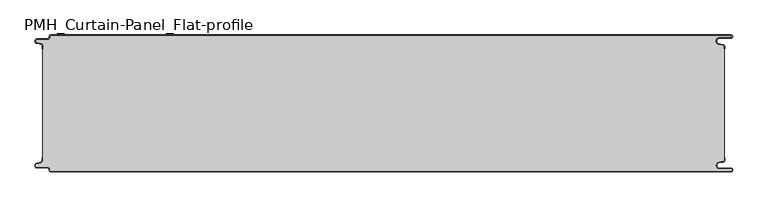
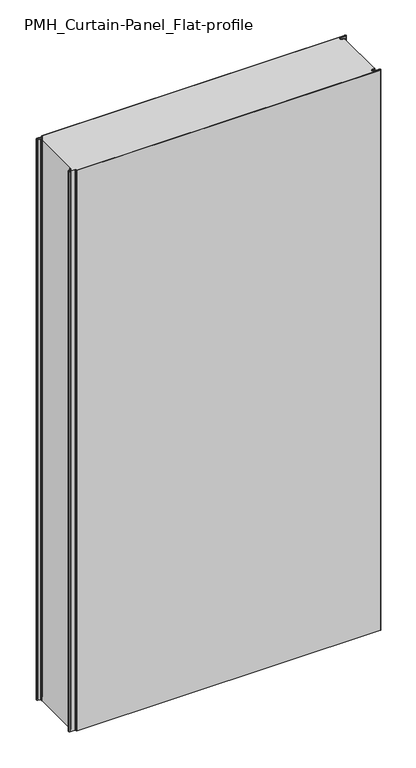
"""IFC4 building model written with IfcOpenShell, lengths in millimetres: plate geometry, PMH_Curtain-Panel_Flat-profile : ACH_PMH_Stone-wool-Panel_200M."""

import ifcopenshell
import ifcopenshell.guid

model = None  # the IFC model being written
_history = None  # IfcOwnerHistory: only IFC2X3 demands one
_inside = {}  # id of a spatial element -> (the spatial element, [elements in it])
_under = {}  # id of a project, library or spatial element -> (it, [spatial elements below it])
_declared = {}  # id of a project -> (the project, [libraries it declares])
_typed = {}  # id of a type object -> (the type object, [elements of that type])
_made_of = {}  # id of a material, layer set ... -> (it, [elements and type objects made of it])


def new_model(schema):
    """Start an empty IFC model of exactly this schema.

    Asked for "IFC4X3", IfcOpenShell would pick the latest addendum, in which some entities
    have other attributes; the version numbers below select the first issue.
    IFC2X3 requires an IfcOwnerHistory on every rooted entity: one is made here for all.
    """
    global model, _history
    if schema == "IFC4X3":
        model = ifcopenshell.file(schema_version=(4, 3, 0, 0))
    else:
        model = ifcopenshell.file(schema=schema)
    _inside.clear()
    _under.clear()
    _declared.clear()
    _typed.clear()
    _made_of.clear()
    _history = None
    if model.schema == "IFC2X3":
        org = make("IfcOrganization", Name="unknown")
        user = make(
            "IfcPersonAndOrganization",
            ThePerson=make("IfcPerson", FamilyName="unknown"),
            TheOrganization=org,
        )
        app = make(
            "IfcApplication",
            ApplicationDeveloper=org,
            Version="unknown",
            ApplicationFullName="unknown",
            ApplicationIdentifier="unknown",
        )
        _history = make(
            "IfcOwnerHistory",
            OwningUser=user,
            OwningApplication=app,
            ChangeAction="ADDED",
            CreationDate=0,
        )
    return model


def make(cls, **values):
    """One entity of the class cls with the attributes given. An attribute that is None is left unset."""
    return model.create_entity(
        cls, **{name: value for name, value in values.items() if value is not None}
    )


def rooted(cls, **values):
    """An entity with a GlobalId (a new one), such as an element, a storey or a relation."""
    return make(cls, GlobalId=ifcopenshell.guid.new(), OwnerHistory=_history, **values)


def si_unit(unit_type, name, prefix=None):
    """IfcSIUnit, for example si_unit("LENGTHUNIT", "METRE", prefix="MILLI")."""
    return make("IfcSIUnit", UnitType=unit_type, Prefix=prefix, Name=name)


def assignment(units):
    """IfcUnitAssignment: the units of a project."""
    return None if units is None else make("IfcUnitAssignment", Units=units)


def point(xyz):
    """IfcCartesianPoint."""
    return None if xyz is None else make("IfcCartesianPoint", Coordinates=xyz)


def direction(xyz):
    """IfcDirection."""
    return None if xyz is None else make("IfcDirection", DirectionRatios=xyz)


def frame(location, z_axis=None, x_axis=None):
    """IfcAxis2Placement3D, a coordinate frame: its origin and axes. An axis left out is left unset."""
    return make(
        "IfcAxis2Placement3D",
        Location=point(location),
        Axis=direction(z_axis),
        RefDirection=direction(x_axis),
    )


def frame_2d(location, x_axis=None):
    """IfcAxis2Placement2D, a coordinate frame in the plane: its origin and x axis."""
    return make(
        "IfcAxis2Placement2D", Location=point(location), RefDirection=direction(x_axis)
    )


def origin():
    """The frame at (0, 0, 0) with its axes left unset."""
    return frame((0.0, 0.0, 0.0))


def origin_with_axes():
    """The frame at (0, 0, 0) with the z axis (0, 0, 1) and the x axis (1, 0, 0) written out."""
    return frame((0.0, 0.0, 0.0), z_axis=(0.0, 0.0, 1.0), x_axis=(1.0, 0.0, 0.0))


def place(relative_to, where):
    """IfcLocalPlacement: puts the frame where relative to a parent placement (None: the world)."""
    return make(
        "IfcLocalPlacement", PlacementRelTo=relative_to, RelativePlacement=where
    )


def context(
    kind, dimensions, precision=None, world=None, true_north=None, identifier=None
):
    """IfcGeometricRepresentationContext, for example the 3D "Model" context."""
    return make(
        "IfcGeometricRepresentationContext",
        ContextIdentifier=identifier,
        ContextType=kind,
        CoordinateSpaceDimension=dimensions,
        Precision=precision,
        WorldCoordinateSystem=world,
        TrueNorth=true_north,
    )


def project(units=None, contexts=None):
    """IfcProject with its units and contexts."""
    return rooted(
        "IfcProject",
        Name="project",
        RepresentationContexts=contexts,
        UnitsInContext=assignment(units),
    )


def spatial(cls, under=None, at=None, **own):
    """A site, building, storey or space (cls), placed at a placement, below another one or the project."""
    s = rooted(cls, ObjectPlacement=at, **own)
    if under is not None:
        _under.setdefault(under.id(), (under, []))[1].append(s)
    return s


def polyline(points):
    """IfcPolyline through the points."""
    return make("IfcPolyline", Points=[point(p) for p in points])


def circle_curve(where, radius):
    """IfcCircle in the frame where."""
    return make("IfcCircle", Position=where, Radius=radius)


def trimmed(basis, trim1, trim2, sense, master):
    """IfcTrimmedCurve: the piece of a basis curve between two trims."""
    return make(
        "IfcTrimmedCurve",
        BasisCurve=basis,
        Trim1=trim1,
        Trim2=trim2,
        SenseAgreement=sense,
        MasterRepresentation=master,
    )


def segment(curve, same_sense, transition):
    """IfcCompositeCurveSegment."""
    return make(
        "IfcCompositeCurveSegment",
        Transition=transition,
        SameSense=same_sense,
        ParentCurve=curve,
    )


def composite_curve(segments, self_intersect=None):
    """IfcCompositeCurve: segments joined end to end."""
    return make("IfcCompositeCurve", Segments=segments, SelfIntersect=self_intersect)


def outline(outer, holes=None, kind="AREA"):
    """IfcArbitraryClosedProfileDef: a profile drawn as a closed curve; with holes, ...WithVoids."""
    if holes is None:
        return make("IfcArbitraryClosedProfileDef", ProfileType=kind, OuterCurve=outer)
    return make(
        "IfcArbitraryProfileDefWithVoids",
        ProfileType=kind,
        OuterCurve=outer,
        InnerCurves=holes,
    )


def extrude(swept, where, along, depth):
    """IfcExtrudedAreaSolid: the profile swept, set in the frame where, extruded along a direction by depth."""
    return make(
        "IfcExtrudedAreaSolid",
        SweptArea=swept,
        Position=where,
        ExtrudedDirection=direction(along),
        Depth=depth,
    )


def shape(context_of_items, identifier, shape_type, items):
    """IfcShapeRepresentation: the items that make up one representation, for example the "Body"."""
    return make(
        "IfcShapeRepresentation",
        ContextOfItems=context_of_items,
        RepresentationIdentifier=identifier,
        RepresentationType=shape_type,
        Items=items,
    )


def source(mapping_origin, context_of_items, identifier, shape_type, items):
    """IfcRepresentationMap: a shape defined once, which mapped items show again and again."""
    return make(
        "IfcRepresentationMap",
        MappingOrigin=mapping_origin,
        MappedRepresentation=shape(context_of_items, identifier, shape_type, items),
    )


def transform(
    local_origin,
    x_axis=None,
    y_axis=None,
    z_axis=None,
    scale=None,
    scale2=None,
    scale3=None,
    uniform=True,
):
    """IfcCartesianTransformationOperator3D, or its non-uniform kind. x_axis, y_axis, z_axis: its Axis1, 2, 3."""
    if uniform:
        return make(
            "IfcCartesianTransformationOperator3D",
            Axis1=direction(x_axis),
            Axis2=direction(y_axis),
            LocalOrigin=point(local_origin),
            Scale=scale,
            Axis3=direction(z_axis),
        )
    return make(
        "IfcCartesianTransformationOperator3DnonUniform",
        Axis1=direction(x_axis),
        Axis2=direction(y_axis),
        LocalOrigin=point(local_origin),
        Scale=scale,
        Axis3=direction(z_axis),
        Scale2=scale2,
        Scale3=scale3,
    )


def mapped(mapping_source, mapping_target):
    """IfcMappedItem: shows the shape of a source again, moved by a transform."""
    return make(
        "IfcMappedItem", MappingSource=mapping_source, MappingTarget=mapping_target
    )


def made_of(thing, what):
    """Note that an element or type object is made of a material, layer set ...; save() writes the relation."""
    if what is not None:
        _made_of.setdefault(what.id(), (what, []))[1].append(thing)
    return thing


def element(
    cls,
    number,
    at=None,
    inside=None,
    cuts=None,
    type_object=None,
    material=None,
    context=None,
    identifier="Body",
    shape_type=None,
    held_by="IfcProductDefinitionShape",
    body=None,
    shapes=None,
    **own,
):
    """One element of the class cls, such as IfcWall. Its Tag is "e" and its number.

    at: its placement. inside: the storey or other place that contains it. cuts: it is an
    opening in that element (IfcRelVoidsElement). A single representation is given by context,
    identifier, shape_type and body (its items); several are given by shapes. held_by: the class
    of the entity that holds the representations. save() writes the other relations.
    """
    e = rooted(cls, Tag="e%d" % number, ObjectPlacement=at, **own)
    if body is not None:
        shapes = [shape(context, identifier, shape_type, body)]
    if shapes is not None:
        e.Representation = make(held_by, Representations=shapes)
    if inside is not None:
        _inside.setdefault(inside.id(), (inside, []))[1].append(e)
    if cuts is not None:
        rooted(
            "IfcRelVoidsElement", RelatingBuildingElement=cuts, RelatedOpeningElement=e
        )
    if type_object is not None:
        _typed.setdefault(type_object.id(), (type_object, []))[1].append(e)
    return made_of(e, material)


def aggregate(whole, parts):
    """IfcRelAggregates: a whole, such as a stair, and the parts it consists of."""
    return rooted("IfcRelAggregates", RelatingObject=whole, RelatedObjects=parts)


def save(model, path):
    """Write the relations noted so far, then the file.

    IfcRelAggregates (storeys below a building ...), IfcRelContainedInSpatialStructure (elements
    in a storey), IfcRelDefinesByType, IfcRelAssociatesMaterial and IfcRelDeclares: one each for
    every whole, place, type object, material and project.
    """
    for whole, parts in _under.values():
        aggregate(whole, parts)
    for where, things in _inside.values():
        rooted(
            "IfcRelContainedInSpatialStructure",
            RelatedElements=things,
            RelatingStructure=where,
        )
    for kind, things in _typed.values():
        rooted("IfcRelDefinesByType", RelatedObjects=things, RelatingType=kind)
    for what, things in _made_of.values():
        rooted("IfcRelAssociatesMaterial", RelatedObjects=things, RelatingMaterial=what)
    for by, libraries in _declared.values():
        rooted("IfcRelDeclares", RelatingContext=by, RelatedDefinitions=libraries)
    model.write(path)


def plane_surface(at):
    """IfcPlane: the flat surface through the origin of the frame at, square to its z axis."""
    return make("IfcPlane", Position=at)


def cylinder_surface(at, radius):
    """IfcCylindricalSurface: all points at the distance radius from the z axis of the frame at."""
    return make("IfcCylindricalSurface", Position=at, Radius=radius)


def revolved_surface(curve, axis_point, axis_direction):
    """IfcSurfaceOfRevolution: the curve turned about the line through axis_point along axis_direction."""
    return make(
        "IfcSurfaceOfRevolution",
        SweptCurve=make("IfcArbitraryOpenProfileDef", ProfileType="CURVE", Curve=curve),
        AxisPosition=make("IfcAxis1Placement", Location=point(axis_point), Axis=direction(axis_direction)),
    )


def advanced_brep(points, edges, surfaces, faces):
    """IfcAdvancedBrep: a solid bounded by faces that lie on surfaces and meet in shared edges.

    An edge is (start, end): straight between two places in points (the first is 0);
    or (start, end, curve); or (start, end, curve, False) where it runs against its curve.
    A face is (place in surfaces, loops), or (place, loops, False) where it looks against
    its surface's normal. A loop lists edges by number (the first is 1), with a minus sign
    where the edge is run from its end to its start. The first loop is the outer one.
    """
    corners = [point(p) for p in points]
    vertices = [make("IfcVertexPoint", VertexGeometry=c) for c in corners]
    made = []
    for start, end, *more in edges:
        made.append(
            make(
                "IfcEdgeCurve",
                EdgeStart=vertices[start],
                EdgeEnd=vertices[end],
                EdgeGeometry=more[0] if more else make("IfcPolyline", Points=[corners[start], corners[end]]),
                SameSense=more[1] if len(more) > 1 else True,
            )
        )
    hull = []
    for where, loops, *sense in faces:
        bounds = []
        for j, loop in enumerate(loops):
            ring = [make("IfcOrientedEdge", EdgeElement=made[abs(k) - 1], Orientation=k > 0) for k in loop]
            bounds.append(
                make(
                    "IfcFaceOuterBound" if j == 0 else "IfcFaceBound",
                    Bound=make("IfcEdgeLoop", EdgeList=ring),
                    Orientation=True,
                )
            )
        hull.append(make("IfcAdvancedFace", Bounds=bounds, FaceSurface=surfaces[where], SameSense=sense[0] if sense else True))
    return make("IfcAdvancedBrep", Outer=make("IfcClosedShell", CfsFaces=hull))


def pmh_curtain_panel_flat_profile_00a58165(model_context):
    return source(origin(), model_context, "Body", "SolidModel", [
        advanced_brep(
        [(508.1, 0.0, 1945.7507136), (-487.4, 0.0, 1945.7507136), (-489.4, -2.0, 1945.7507136), (-489.4, -3.4, 1945.7507136), (-491.4, -5.4, 1945.7507136), (-506.9, -5.4, 1945.7507136), (-507.7098239, -12.5077322, 1945.7507136), (-501.5500979, -13.929817, 1945.7507136), (-500.0, -15.878557, 1945.7507136), (-500.0, -20.0, 1945.7507136), (-499.2, -20.0, 1945.7507136), (-499.2, -15.878557, 1945.7507136), (-501.370137, -13.1503208, 1945.7507136), (-507.529863, -11.728236, 1945.7507136), (-506.9, -6.2, 1945.7507136), (-491.4, -6.2, 1945.7507136), (-488.6, -3.4, 1945.7507136), (-488.6, -2.0, 1945.7507136), (-487.4, -0.8, 1945.7507136), (508.1, -0.8, 1945.7507136), (508.1, -4.2, 1945.7507136), (491.1, -4.2, 1945.7507136), (490.2664884, -13.7270771, 1945.7507136), (496.7125669, -14.8636953, 1945.7507136), (498.2, -16.6363492, 1945.7507136), (498.2, -20.0, 1945.7507136), (499.0, -20.0, 1945.7507136), (499.0, -16.6363492, 1945.7507136), (496.8514855, -14.0758491, 1945.7507136), (490.405407, -12.939231, 1945.7507136), (491.1, -5.0, 1945.7507136), (508.1, -5.0, 1945.7507136), (510.6, -2.5000002, 1945.7507136), (-487.4, 0.0, 0.0), (508.1, 0.0, 0.0), (510.6, -2.4999998, 0.0), (508.1, -5.0, 0.0), (491.1, -5.0, 0.0), (490.405407, -12.939231, 0.0), (496.8514855, -14.0758491, 0.0), (499.0, -16.6363492, 0.0), (499.0, -20.0, 0.0), (498.2, -20.0, 0.0), (498.2, -16.6363492, 0.0), (496.7125669, -14.8636953, 0.0), (490.2664884, -13.7270771, 0.0), (491.1, -4.2, 0.0), (508.1, -4.2, 0.0), (508.1, -0.8, 0.0), (-487.4, -0.8, 0.0), (-488.6, -2.0, 0.0), (-488.6, -3.4, 0.0), (-491.4, -6.2, 0.0), (-506.9, -6.2, 0.0), (-507.529863, -11.7282362, 0.0), (-501.370137, -13.150321, 0.0), (-499.2, -15.878557, 0.0), (-499.2, -20.0, 0.0), (-500.0, -20.0, 0.0), (-500.0, -15.878557, 0.0), (-501.5500978, -13.9298169, 0.0), (-507.7098239, -12.507732, 0.0), (-506.9, -5.4, 0.0), (-491.4, -5.4, 0.0), (-489.4, -3.4, 0.0), (-489.4, -2.0, 0.0)],
        [
            (0, 1),
            (1, 2, circle_curve(frame((-487.4, -2.0, 1945.7507136), z_axis=(0.0, 0.0, 1.0), x_axis=(1.0, 0.0, 0.0)), 2.0)),
            (2, 3),
            (3, 4, circle_curve(frame((-491.4, -3.4, 1945.7507136), z_axis=(0.0, 0.0, -1.0), x_axis=(1.0, 0.0, 0.0)), 2.0)),
            (4, 5),
            (5, 6, circle_curve(frame((-506.9, -9.0, 1945.7507136), z_axis=(0.0, 0.0, 1.0), x_axis=(1.0, 0.0, 0.0)), 3.6)),
            (6, 7),
            (7, 8, circle_curve(frame((-502.0, -15.878557, 1945.7507136), z_axis=(0.0, 0.0, -1.0), x_axis=(1.0, 0.0, 0.0)), 2.0)),
            (8, 9),
            (9, 10),
            (10, 11),
            (11, 12, circle_curve(frame((-502.0, -15.878557, 1945.7507136), z_axis=(0.0, 0.0, 1.0), x_axis=(1.0, 0.0, 0.0)), 2.8)),
            (12, 13),
            (13, 14, circle_curve(frame((-506.9, -9.0, 1945.7507136), z_axis=(0.0, 0.0, -1.0), x_axis=(1.0, 0.0, 0.0)), 2.8)),
            (14, 15),
            (15, 16, circle_curve(frame((-491.4, -3.4, 1945.7507136), z_axis=(0.0, 0.0, 1.0), x_axis=(1.0, 0.0, 0.0)), 2.8)),
            (16, 17),
            (17, 18, circle_curve(frame((-487.4, -2.0, 1945.7507136), z_axis=(0.0, 0.0, -1.0), x_axis=(1.0, 0.0, 0.0)), 1.2)),
            (18, 19),
            (19, 20, circle_curve(frame((508.1, -2.5, 1945.7507136), z_axis=(0.0, 0.0, -1.0), x_axis=(1.0, 0.0, 0.0)), 1.7)),
            (20, 21),
            (21, 22, circle_curve(frame((491.1, -9.0, 1945.7507136), z_axis=(0.0, 0.0, 1.0), x_axis=(1.0, 0.0, 0.0)), 4.8)),
            (22, 23),
            (23, 24, circle_curve(frame((496.4, -16.6363492, 1945.7507136), z_axis=(0.0, 0.0, -1.0), x_axis=(1.0, 0.0, 0.0)), 1.8)),
            (24, 25),
            (25, 26),
            (26, 27),
            (27, 28, circle_curve(frame((496.4, -16.6363492, 1945.7507136), z_axis=(0.0, 0.0, 1.0), x_axis=(1.0, 0.0, 0.0)), 2.6)),
            (28, 29),
            (29, 30, circle_curve(frame((491.1, -9.0, 1945.7507136), z_axis=(0.0, 0.0, -1.0), x_axis=(1.0, 0.0, 0.0)), 4.0)),
            (30, 31),
            (31, 32, circle_curve(frame((508.1, -2.5, 1945.7507136), z_axis=(0.0, 0.0, 1.0), x_axis=(1.0, 0.0, 0.0)), 2.5)),
            (32, 0, circle_curve(frame((508.1, -2.5, 1945.7507136), z_axis=(0.0, 0.0, 1.0), x_axis=(1.0, 0.0, 0.0)), 2.5)),
            (33, 34),
            (34, 35, circle_curve(frame((508.1, -2.5, 0.0), z_axis=(0.0, 0.0, -1.0), x_axis=(1.0, 0.0, 0.0)), 2.5)),
            (35, 36, circle_curve(frame((508.1, -2.5, 0.0), z_axis=(0.0, 0.0, -1.0), x_axis=(1.0, 0.0, 0.0)), 2.5)),
            (36, 37),
            (37, 38, circle_curve(frame((491.1, -9.0, 0.0), z_axis=(0.0, 0.0, 1.0), x_axis=(1.0, 0.0, 0.0)), 4.0)),
            (38, 39),
            (39, 40, circle_curve(frame((496.4, -16.6363492, 0.0), z_axis=(0.0, 0.0, -1.0), x_axis=(1.0, 0.0, 0.0)), 2.6)),
            (40, 41),
            (41, 42),
            (42, 43),
            (43, 44, circle_curve(frame((496.4, -16.6363492, 0.0), z_axis=(0.0, 0.0, 1.0), x_axis=(1.0, 0.0, 0.0)), 1.8)),
            (44, 45),
            (45, 46, circle_curve(frame((491.1, -9.0, 0.0), z_axis=(0.0, 0.0, -1.0), x_axis=(1.0, 0.0, 0.0)), 4.8)),
            (46, 47),
            (47, 48, circle_curve(frame((508.1, -2.5, 0.0), z_axis=(0.0, 0.0, 1.0), x_axis=(1.0, 0.0, 0.0)), 1.7)),
            (48, 49),
            (49, 50, circle_curve(frame((-487.4, -2.0, 0.0), z_axis=(0.0, 0.0, 1.0), x_axis=(1.0, 0.0, 0.0)), 1.2)),
            (50, 51),
            (51, 52, circle_curve(frame((-491.4, -3.4, 0.0), z_axis=(0.0, 0.0, -1.0), x_axis=(1.0, 0.0, 0.0)), 2.8)),
            (52, 53),
            (53, 54, circle_curve(frame((-506.9, -9.0, 0.0), z_axis=(0.0, 0.0, 1.0), x_axis=(1.0, 0.0, 0.0)), 2.8)),
            (54, 55),
            (55, 56, circle_curve(frame((-502.0, -15.878557, 0.0), z_axis=(0.0, 0.0, -1.0), x_axis=(1.0, 0.0, 0.0)), 2.8)),
            (56, 57),
            (57, 58),
            (58, 59),
            (59, 60, circle_curve(frame((-502.0, -15.878557, 0.0), z_axis=(0.0, 0.0, 1.0), x_axis=(1.0, 0.0, 0.0)), 2.0)),
            (60, 61),
            (61, 62, circle_curve(frame((-506.9, -9.0, 0.0), z_axis=(0.0, 0.0, -1.0), x_axis=(1.0, 0.0, 0.0)), 3.6)),
            (62, 63),
            (63, 64, circle_curve(frame((-491.4, -3.4, 0.0), z_axis=(0.0, 0.0, 1.0), x_axis=(1.0, 0.0, 0.0)), 2.0)),
            (64, 65),
            (65, 33, circle_curve(frame((-487.4, -2.0, 0.0), z_axis=(0.0, 0.0, -1.0), x_axis=(1.0, 0.0, 0.0)), 2.0)),
            (1, 33),
            (65, 2),
            (64, 3),
            (63, 4),
            (62, 5),
            (61, 6),
            (60, 7),
            (59, 8),
            (58, 9),
            (57, 10),
            (56, 11),
            (55, 12),
            (54, 13),
            (53, 14),
            (52, 15),
            (51, 16),
            (50, 17),
            (49, 18),
            (48, 19),
            (47, 20),
            (46, 21),
            (45, 22),
            (44, 23),
            (43, 24),
            (42, 25),
            (41, 26),
            (40, 27),
            (39, 28),
            (38, 29),
            (37, 30),
            (36, 31),
            (34, 0),
        ],
        [
            plane_surface(frame((-500.0, 0.0, 1945.7507136), z_axis=(0.0, 0.0, 1.0), x_axis=(0.0, 1.0, 0.0))),
            plane_surface(frame((-500.0, 0.0, 0.0), z_axis=(0.0, 0.0, -1.0), x_axis=(0.0, 1.0, 0.0))),
            cylinder_surface(frame((-487.4, -2.0, 1945.7507136), z_axis=(0.0, 0.0, 1.0), x_axis=(1.0, 0.0, 0.0)), 2.0),
            plane_surface(frame((-489.4, -2.0, 1945.7507136), z_axis=(-1.0, 0.0, 0.0), x_axis=(0.0, 0.0, -1.0))),
            revolved_surface(polyline([(-489.4, -3.4, 0.0), (-489.4, -3.4, 1945.7507136)]), (-491.4, -3.4, 1945.7507136), (0.0, 0.0, -1.0)),
            plane_surface(frame((-491.4, -5.4, 1945.7507136), z_axis=(0.0, 1.0, 0.0), x_axis=(0.0, 0.0, -1.0))),
            cylinder_surface(frame((-506.9, -9.0, 1945.7507136), z_axis=(0.0, 0.0, 1.0), x_axis=(1.0, 0.0, 0.0)), 3.6),
            plane_surface(frame((-507.7098239, -12.507732, 1945.7507136), z_axis=(-0.2249510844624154, -0.9743700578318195, 0.0), x_axis=(0.0, 0.0, -1.0))),
            revolved_surface(polyline([(-500.0, -15.878557, 0.0), (-500.0, -15.878557, 1945.7507136)]), (-502.0, -15.878557, 1945.7507136), (0.0, 0.0, -1.0)),
            plane_surface(frame((-500.0, -15.878557, 1945.7507136), z_axis=(-1.0, 0.0, 0.0), x_axis=(0.0, 0.0, -1.0))),
            plane_surface(frame((-500.0, -20.0, 1945.7507136), z_axis=(0.0, -1.0, 0.0), x_axis=(0.0, 0.0, -1.0))),
            plane_surface(frame((-499.2, -20.0, 1945.7507136), z_axis=(1.0, 0.0, 0.0), x_axis=(0.0, 0.0, -1.0))),
            cylinder_surface(frame((-502.0, -15.878557, 1945.7507136), z_axis=(0.0, 0.0, 1.0), x_axis=(1.0, 0.0, 0.0)), 2.8),
            plane_surface(frame((-501.370137, -13.150321, 1945.7507136), z_axis=(0.22495108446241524, 0.9743700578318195, 0.0), x_axis=(0.0, 0.0, -1.0))),
            revolved_surface(polyline([(-504.09999999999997, -9.0, 0.0), (-504.09999999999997, -9.0, 1945.7507136)]), (-506.9, -9.0, 1945.7507136), (0.0, 0.0, -1.0)),
            plane_surface(frame((-506.9, -6.2, 1945.7507136), z_axis=(0.0, -1.0, 0.0), x_axis=(0.0, 0.0, -1.0))),
            cylinder_surface(frame((-491.4, -3.4, 1945.7507136), z_axis=(0.0, 0.0, 1.0), x_axis=(1.0, 0.0, 0.0)), 2.8),
            plane_surface(frame((-488.6, -3.4, 1945.7507136), z_axis=(1.0, 0.0, 0.0), x_axis=(0.0, 0.0, -1.0))),
            revolved_surface(polyline([(-486.2, -2.0, 0.0), (-486.2, -2.0, 1945.7507136)]), (-487.4, -2.0, 1945.7507136), (0.0, 0.0, -1.0)),
            plane_surface(frame((-487.4, -0.8, 1945.7507136), z_axis=(0.0, -1.0, 0.0), x_axis=(0.0, 0.0, -1.0))),
            revolved_surface(polyline([(509.8, -2.5, 0.0), (509.8, -2.5, 1945.7507136)]), (508.1, -2.5, 1945.7507136), (0.0, 0.0, -1.0)),
            plane_surface(frame((508.1, -4.2, 1945.7507136), z_axis=(0.0, 1.0, 0.0), x_axis=(0.0, 0.0, -1.0))),
            cylinder_surface(frame((491.1, -9.0, 1945.7507136), z_axis=(0.0, 0.0, 1.0), x_axis=(1.0, 0.0, 0.0)), 4.8),
            plane_surface(frame((490.2664884, -13.7270771, 1945.7507136), z_axis=(-0.17364826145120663, -0.984807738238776, 0.0), x_axis=(0.0, 0.0, -1.0))),
            revolved_surface(polyline([(498.2, -16.6363492, 0.0), (498.2, -16.6363492, 1945.7507136)]), (496.4, -16.6363492, 1945.7507136), (0.0, 0.0, -1.0)),
            plane_surface(frame((498.2, -16.6363492, 1945.7507136), z_axis=(-1.0, 0.0, 0.0), x_axis=(0.0, 0.0, -1.0))),
            plane_surface(frame((498.2, -20.0, 1945.7507136), z_axis=(0.0, -1.0, 0.0), x_axis=(0.0, 0.0, -1.0))),
            plane_surface(frame((499.0, -20.0, 1945.7507136), z_axis=(1.0, 0.0, 0.0), x_axis=(0.0, 0.0, -1.0))),
            cylinder_surface(frame((496.4, -16.6363492, 1945.7507136), z_axis=(0.0, 0.0, 1.0), x_axis=(1.0, 0.0, 0.0)), 2.6),
            plane_surface(frame((496.8514855, -14.0758491, 1945.7507136), z_axis=(0.17364826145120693, 0.9848077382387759, 0.0), x_axis=(0.0, 0.0, -1.0))),
            revolved_surface(polyline([(495.1, -9.0, 0.0), (495.1, -9.0, 1945.7507136)]), (491.1, -9.0, 1945.7507136), (0.0, 0.0, -1.0)),
            plane_surface(frame((491.1, -5.0, 1945.7507136), z_axis=(0.0, -1.0, 0.0), x_axis=(0.0, 0.0, -1.0))),
            cylinder_surface(frame((508.1, -2.5, 1945.7507136), z_axis=(0.0, 0.0, 1.0), x_axis=(1.0, 0.0, 0.0)), 2.5),
            plane_surface(frame((490.5783588, 0.0, 1945.7507136), z_axis=(0.0, 1.0, 0.0), x_axis=(0.0, 0.0, -1.0))),
        ],
        [
            (0, [[1, 2, 3, 4, 5, 6, 7, 8, 9, 10, 11, 12, 13, 14, 15, 16, 17, 18, 19, 20, 21, 22, 23, 24, 25, 26, 27, 28, 29, 30, 31, 32, 33]]),
            (1, [[34, 35, 36, 37, 38, 39, 40, 41, 42, 43, 44, 45, 46, 47, 48, 49, 50, 51, 52, 53, 54, 55, 56, 57, 58, 59, 60, 61, 62, 63, 64, 65, 66]]),
            (2, [[-2, 67, -66, 68]]),
            (3, [[-3, -68, -65, 69]]),
            (4, [[-4, -69, -64, 70]]),
            (5, [[-5, -70, -63, 71]]),
            (6, [[-6, -71, -62, 72]]),
            (7, [[-7, -72, -61, 73]]),
            (8, [[-8, -73, -60, 74]]),
            (9, [[-9, -74, -59, 75]]),
            (10, [[-10, -75, -58, 76]]),
            (11, [[-11, -76, -57, 77]]),
            (12, [[-12, -77, -56, 78]]),
            (13, [[-13, -78, -55, 79]]),
            (14, [[-14, -79, -54, 80]]),
            (15, [[-15, -80, -53, 81]]),
            (16, [[-16, -81, -52, 82]]),
            (17, [[-17, -82, -51, 83]]),
            (18, [[-18, -83, -50, 84]]),
            (19, [[-19, -84, -49, 85]]),
            (20, [[-20, -85, -48, 86]]),
            (21, [[-21, -86, -47, 87]]),
            (22, [[-22, -87, -46, 88]]),
            (23, [[-23, -88, -45, 89]]),
            (24, [[-24, -89, -44, 90]]),
            (25, [[-25, -90, -43, 91]]),
            (26, [[-26, -91, -42, 92]]),
            (27, [[-27, -92, -41, 93]]),
            (28, [[-28, -93, -40, 94]]),
            (29, [[-29, -94, -39, 95]]),
            (30, [[-30, -95, -38, 96]]),
            (31, [[-31, -96, -37, 97]]),
            (32, [[-97, -36, -35, 98, -33, -32]]),
            (33, [[-1, -98, -34, -67]]),
        ],
    ),
        extrude(outline(composite_curve([segment(polyline([(-499.2, -184.1214426), (-499.2, -15.8785573)]), True, "CONTINUOUS"), segment(trimmed(circle_curve(frame_2d((-502.0, -15.8785573)), 2.8), [point((-499.2, -15.8785573))], [point((-501.370137, -13.1503212))], True, "CARTESIAN"), True, "CONTINUOUS"), segment(polyline([(-501.370137, -13.1503212), (-507.5298631, -11.7282362)]), True, "CONTINUOUS"), segment(trimmed(circle_curve(frame_2d((-506.9, -9.0)), 2.8), [point((-507.5298631, -11.7282362))], [point((-506.9, -6.2))], False, "CARTESIAN"), True, "CONTINUOUS"), segment(polyline([(-506.9, -6.2), (-491.4000001, -6.2)]), True, "CONTINUOUS"), segment(trimmed(circle_curve(frame_2d((-491.4000001, -3.4)), 2.8), [point((-491.4000001, -6.2))], [point((-488.6000001, -3.4))], True, "CARTESIAN"), True, "CONTINUOUS"), segment(polyline([(-488.6000001, -3.4), (-488.6000001, -2.0)]), True, "CONTINUOUS"), segment(trimmed(circle_curve(frame_2d((-487.4000001, -2.0)), 1.2), [point((-488.6000001, -2.0))], [point((-487.4000001, -0.8))], False, "CARTESIAN"), True, "CONTINUOUS"), segment(polyline([(-487.4000001, -0.8), (508.1, -0.8)]), True, "CONTINUOUS"), segment(trimmed(circle_curve(frame_2d((508.1, -2.5)), 1.7), [point((508.1, -0.8))], [point((508.1, -4.2))], False, "CARTESIAN"), True, "CONTINUOUS"), segment(polyline([(508.1, -4.2), (491.1, -4.2)]), True, "CONTINUOUS"), segment(trimmed(circle_curve(frame_2d((491.1, -9.0)), 4.8), [point((491.1, -4.2))], [point((490.2664883, -13.7270771))], True, "CARTESIAN"), True, "CONTINUOUS"), segment(polyline([(490.2664883, -13.7270771), (496.7125668, -14.8636953)]), True, "CONTINUOUS"), segment(trimmed(circle_curve(frame_2d((496.4, -16.6363492)), 1.8), [point((496.7125668, -14.8636953))], [point((498.2, -16.6363492))], False, "CARTESIAN"), True, "CONTINUOUS"), segment(polyline([(498.2, -16.6363492), (498.2, -183.3636508)]), True, "CONTINUOUS"), segment(trimmed(circle_curve(frame_2d((496.4, -183.3636508)), 1.8), [point((498.2, -183.3636508))], [point((496.7125668, -185.1363047))], False, "CARTESIAN"), True, "CONTINUOUS"), segment(polyline([(496.7125668, -185.1363047), (490.2664883, -186.2729229)]), True, "CONTINUOUS"), segment(trimmed(circle_curve(frame_2d((491.1, -191.0)), 4.8), [point((490.2664883, -186.2729229))], [point((491.1, -195.8))], True, "CARTESIAN"), True, "CONTINUOUS"), segment(polyline([(491.1, -195.8), (508.1, -195.8)]), True, "CONTINUOUS"), segment(trimmed(circle_curve(frame_2d((508.1, -197.5)), 1.7), [point((508.1, -195.8))], [point((508.1, -199.2))], False, "CARTESIAN"), True, "CONTINUOUS"), segment(polyline([(508.1, -199.2), (-487.4000001, -199.2)]), True, "CONTINUOUS"), segment(trimmed(circle_curve(frame_2d((-487.4000001, -198.0)), 1.2), [point((-487.4000001, -199.2))], [point((-488.6000001, -198.0))], False, "CARTESIAN"), True, "CONTINUOUS"), segment(polyline([(-488.6000001, -198.0), (-488.6000001, -196.6)]), True, "CONTINUOUS"), segment(trimmed(circle_curve(frame_2d((-491.4000001, -196.6)), 2.8), [point((-488.6000001, -196.6))], [point((-491.4000001, -193.8))], True, "CARTESIAN"), True, "CONTINUOUS"), segment(polyline([(-491.4000001, -193.8), (-506.9, -193.8)]), True, "CONTINUOUS"), segment(trimmed(circle_curve(frame_2d((-506.9, -191.0)), 2.8), [point((-506.9, -193.8))], [point((-507.5298631, -188.2717638))], False, "CARTESIAN"), True, "CONTINUOUS"), segment(polyline([(-507.5298631, -188.2717638), (-501.370137, -186.8496788)]), True, "CONTINUOUS"), segment(trimmed(circle_curve(frame_2d((-502.0, -184.1214426)), 2.8), [point((-501.370137, -186.8496788))], [point((-499.2, -184.1214426))], True, "CARTESIAN"), True, "CONTINUOUS")], self_intersect=False)), origin_with_axes(), (0.0, 0.0, 1.0), 1945.7507136),
        advanced_brep(
        [(-487.4, -200.0, 1945.7507136), (508.1, -200.0, 1945.7507136), (510.6, -197.5000002, 1945.7507136), (508.1, -195.0, 1945.7507136), (491.1, -195.0, 1945.7507136), (490.405407, -187.060769, 1945.7507136), (496.8514855, -185.9241509, 1945.7507136), (499.0, -183.3636508, 1945.7507136), (499.0, -180.0, 1945.7507136), (498.2, -180.0, 1945.7507136), (498.2, -183.3636508, 1945.7507136), (496.7125669, -185.1363047, 1945.7507136), (490.2664884, -186.2729229, 1945.7507136), (491.1, -195.8, 1945.7507136), (508.1, -195.8, 1945.7507136), (508.1, -199.2, 1945.7507136), (-487.4, -199.2, 1945.7507136), (-488.6, -198.0, 1945.7507136), (-488.6, -196.6, 1945.7507136), (-491.4, -193.8, 1945.7507136), (-506.9, -193.8, 1945.7507136), (-507.529863, -188.2717638, 1945.7507136), (-501.370137, -186.849679, 1945.7507136), (-499.2, -184.121443, 1945.7507136), (-499.2, -180.0, 1945.7507136), (-500.0, -180.0, 1945.7507136), (-500.0, -184.121443, 1945.7507136), (-501.5500978, -186.0701831, 1945.7507136), (-507.7098239, -187.492268, 1945.7507136), (-506.9, -194.6, 1945.7507136), (-491.4, -194.6, 1945.7507136), (-489.4, -196.6, 1945.7507136), (-489.4, -198.0, 1945.7507136), (508.1, -200.0, 0.0), (-487.4, -200.0, 0.0), (-489.4, -198.0, 0.0), (-489.4, -196.6, 0.0), (-491.4, -194.6, 0.0), (-506.9, -194.6, 0.0), (-507.7098239, -187.4922678, 0.0), (-501.5500979, -186.070183, 0.0), (-500.0, -184.121443, 0.0), (-500.0, -180.0, 0.0), (-499.2, -180.0, 0.0), (-499.2, -184.121443, 0.0), (-501.370137, -186.8496792, 0.0), (-507.529863, -188.271764, 0.0), (-506.9, -193.8, 0.0), (-491.4, -193.8, 0.0), (-488.6, -196.6, 0.0), (-488.6, -198.0, 0.0), (-487.4, -199.2, 0.0), (508.1, -199.2, 0.0), (508.1, -195.8, 0.0), (491.1, -195.8, 0.0), (490.2664884, -186.2729229, 0.0), (496.7125669, -185.1363047, 0.0), (498.2, -183.3636508, 0.0), (498.2, -180.0, 0.0), (499.0, -180.0, 0.0), (499.0, -183.3636508, 0.0), (496.8514855, -185.9241509, 0.0), (490.405407, -187.060769, 0.0), (491.1, -195.0, 0.0), (508.1, -195.0, 0.0), (510.6, -197.4999998, 0.0)],
        [
            (0, 1),
            (1, 2, circle_curve(frame((508.1, -197.5, 1945.7507136), z_axis=(0.0, 0.0, 1.0), x_axis=(1.0, 0.0, 0.0)), 2.5)),
            (2, 3, circle_curve(frame((508.1, -197.5, 1945.7507136), z_axis=(0.0, 0.0, 1.0), x_axis=(1.0, 0.0, 0.0)), 2.5)),
            (3, 4),
            (4, 5, circle_curve(frame((491.1, -191.0, 1945.7507136), z_axis=(0.0, 0.0, -1.0), x_axis=(1.0, 0.0, 0.0)), 4.0)),
            (5, 6),
            (6, 7, circle_curve(frame((496.4, -183.3636508, 1945.7507136), z_axis=(0.0, 0.0, 1.0), x_axis=(1.0, 0.0, 0.0)), 2.6)),
            (7, 8),
            (8, 9),
            (9, 10),
            (10, 11, circle_curve(frame((496.4, -183.3636508, 1945.7507136), z_axis=(0.0, 0.0, -1.0), x_axis=(1.0, 0.0, 0.0)), 1.8)),
            (11, 12),
            (12, 13, circle_curve(frame((491.1, -191.0, 1945.7507136), z_axis=(0.0, 0.0, 1.0), x_axis=(1.0, 0.0, 0.0)), 4.8)),
            (13, 14),
            (14, 15, circle_curve(frame((508.1, -197.5, 1945.7507136), z_axis=(0.0, 0.0, -1.0), x_axis=(1.0, 0.0, 0.0)), 1.7)),
            (15, 16),
            (16, 17, circle_curve(frame((-487.4, -198.0, 1945.7507136), z_axis=(0.0, 0.0, -1.0), x_axis=(1.0, 0.0, 0.0)), 1.2)),
            (17, 18),
            (18, 19, circle_curve(frame((-491.4, -196.6, 1945.7507136), z_axis=(0.0, 0.0, 1.0), x_axis=(1.0, 0.0, 0.0)), 2.8)),
            (19, 20),
            (20, 21, circle_curve(frame((-506.9, -191.0, 1945.7507136), z_axis=(0.0, 0.0, -1.0), x_axis=(1.0, 0.0, 0.0)), 2.8)),
            (21, 22),
            (22, 23, circle_curve(frame((-502.0, -184.121443, 1945.7507136), z_axis=(0.0, 0.0, 1.0), x_axis=(1.0, 0.0, 0.0)), 2.8)),
            (23, 24),
            (24, 25),
            (25, 26),
            (26, 27, circle_curve(frame((-502.0, -184.121443, 1945.7507136), z_axis=(0.0, 0.0, -1.0), x_axis=(1.0, 0.0, 0.0)), 2.0)),
            (27, 28),
            (28, 29, circle_curve(frame((-506.9, -191.0, 1945.7507136), z_axis=(0.0, 0.0, 1.0), x_axis=(1.0, 0.0, 0.0)), 3.6)),
            (29, 30),
            (30, 31, circle_curve(frame((-491.4, -196.6, 1945.7507136), z_axis=(0.0, 0.0, -1.0), x_axis=(1.0, 0.0, 0.0)), 2.0)),
            (31, 32),
            (32, 0, circle_curve(frame((-487.4, -198.0, 1945.7507136), z_axis=(0.0, 0.0, 1.0), x_axis=(1.0, 0.0, 0.0)), 2.0)),
            (33, 34),
            (34, 35, circle_curve(frame((-487.4, -198.0, 0.0), z_axis=(0.0, 0.0, -1.0), x_axis=(1.0, 0.0, 0.0)), 2.0)),
            (35, 36),
            (36, 37, circle_curve(frame((-491.4, -196.6, 0.0), z_axis=(0.0, 0.0, 1.0), x_axis=(1.0, 0.0, 0.0)), 2.0)),
            (37, 38),
            (38, 39, circle_curve(frame((-506.9, -191.0, 0.0), z_axis=(0.0, 0.0, -1.0), x_axis=(1.0, 0.0, 0.0)), 3.6)),
            (39, 40),
            (40, 41, circle_curve(frame((-502.0, -184.121443, 0.0), z_axis=(0.0, 0.0, 1.0), x_axis=(1.0, 0.0, 0.0)), 2.0)),
            (41, 42),
            (42, 43),
            (43, 44),
            (44, 45, circle_curve(frame((-502.0, -184.121443, 0.0), z_axis=(0.0, 0.0, -1.0), x_axis=(1.0, 0.0, 0.0)), 2.8)),
            (45, 46),
            (46, 47, circle_curve(frame((-506.9, -191.0, 0.0), z_axis=(0.0, 0.0, 1.0), x_axis=(1.0, 0.0, 0.0)), 2.8)),
            (47, 48),
            (48, 49, circle_curve(frame((-491.4, -196.6, 0.0), z_axis=(0.0, 0.0, -1.0), x_axis=(1.0, 0.0, 0.0)), 2.8)),
            (49, 50),
            (50, 51, circle_curve(frame((-487.4, -198.0, 0.0), z_axis=(0.0, 0.0, 1.0), x_axis=(1.0, 0.0, 0.0)), 1.2)),
            (51, 52),
            (52, 53, circle_curve(frame((508.1, -197.5, 0.0), z_axis=(0.0, 0.0, 1.0), x_axis=(1.0, 0.0, 0.0)), 1.7)),
            (53, 54),
            (54, 55, circle_curve(frame((491.1, -191.0, 0.0), z_axis=(0.0, 0.0, -1.0), x_axis=(1.0, 0.0, 0.0)), 4.8)),
            (55, 56),
            (56, 57, circle_curve(frame((496.4, -183.3636508, 0.0), z_axis=(0.0, 0.0, 1.0), x_axis=(1.0, 0.0, 0.0)), 1.8)),
            (57, 58),
            (58, 59),
            (59, 60),
            (60, 61, circle_curve(frame((496.4, -183.3636508, 0.0), z_axis=(0.0, 0.0, -1.0), x_axis=(1.0, 0.0, 0.0)), 2.6)),
            (61, 62),
            (62, 63, circle_curve(frame((491.1, -191.0, 0.0), z_axis=(0.0, 0.0, 1.0), x_axis=(1.0, 0.0, 0.0)), 4.0)),
            (63, 64),
            (64, 65, circle_curve(frame((508.1, -197.5, 0.0), z_axis=(0.0, 0.0, -1.0), x_axis=(1.0, 0.0, 0.0)), 2.5)),
            (65, 33, circle_curve(frame((508.1, -197.5, 0.0), z_axis=(0.0, 0.0, -1.0), x_axis=(1.0, 0.0, 0.0)), 2.5)),
            (0, 34),
            (33, 1),
            (64, 3),
            (63, 4),
            (62, 5),
            (61, 6),
            (60, 7),
            (59, 8),
            (58, 9),
            (57, 10),
            (56, 11),
            (55, 12),
            (54, 13),
            (53, 14),
            (52, 15),
            (51, 16),
            (50, 17),
            (49, 18),
            (48, 19),
            (47, 20),
            (46, 21),
            (45, 22),
            (44, 23),
            (43, 24),
            (42, 25),
            (41, 26),
            (40, 27),
            (39, 28),
            (38, 29),
            (37, 30),
            (36, 31),
            (35, 32),
        ],
        [
            plane_surface(frame((-500.0, -200.0, 1945.7507136), z_axis=(0.0, 0.0, 1.0), x_axis=(0.0, 1.0, 0.0))),
            plane_surface(frame((-500.0, -200.0, 0.0), z_axis=(0.0, 0.0, -1.0), x_axis=(0.0, 1.0, 0.0))),
            plane_surface(frame((490.5783588, -200.0, 1945.7507136), z_axis=(0.0, -1.0, 0.0), x_axis=(0.0, 0.0, -1.0))),
            cylinder_surface(frame((508.1, -197.5, 1945.7507136), z_axis=(0.0, 0.0, 1.0), x_axis=(1.0, 0.0, 0.0)), 2.5),
            plane_surface(frame((508.1, -195.0, 1945.7507136), z_axis=(0.0, 1.0, 0.0), x_axis=(0.0, 0.0, -1.0))),
            revolved_surface(polyline([(495.1, -191.0, 0.0), (495.1, -191.0, 1945.7507136)]), (491.1, -191.0, 1945.7507136), (0.0, 0.0, -1.0)),
            plane_surface(frame((490.405407, -187.060769, 1945.7507136), z_axis=(0.17364826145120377, -0.9848077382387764, 0.0), x_axis=(0.0, 0.0, -1.0))),
            cylinder_surface(frame((496.4, -183.3636508, 1945.7507136), z_axis=(0.0, 0.0, 1.0), x_axis=(1.0, 0.0, 0.0)), 2.6),
            plane_surface(frame((499.0, -183.3636508, 1945.7507136), z_axis=(1.0, 0.0, 0.0), x_axis=(0.0, 0.0, -1.0))),
            plane_surface(frame((499.0, -180.0, 1945.7507136), z_axis=(0.0, 1.0, 0.0), x_axis=(0.0, 0.0, -1.0))),
            plane_surface(frame((498.2, -180.0, 1945.7507136), z_axis=(-1.0, 0.0, 0.0), x_axis=(0.0, 0.0, -1.0))),
            revolved_surface(polyline([(498.2, -183.3636508, 0.0), (498.2, -183.3636508, 1945.7507136)]), (496.4, -183.3636508, 1945.7507136), (0.0, 0.0, -1.0)),
            plane_surface(frame((496.7125669, -185.1363047, 1945.7507136), z_axis=(-0.17364826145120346, 0.9848077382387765, 0.0), x_axis=(0.0, 0.0, -1.0))),
            cylinder_surface(frame((491.1, -191.0, 1945.7507136), z_axis=(0.0, 0.0, 1.0), x_axis=(1.0, 0.0, 0.0)), 4.8),
            plane_surface(frame((491.1, -195.8, 1945.7507136), z_axis=(0.0, -1.0, 0.0), x_axis=(0.0, 0.0, -1.0))),
            revolved_surface(polyline([(509.8, -197.5, 0.0), (509.8, -197.5, 1945.7507136)]), (508.1, -197.5, 1945.7507136), (0.0, 0.0, -1.0)),
            plane_surface(frame((508.1, -199.2, 1945.7507136), z_axis=(0.0, 1.0, 0.0), x_axis=(0.0, 0.0, -1.0))),
            revolved_surface(polyline([(-486.2, -198.0, 0.0), (-486.2, -198.0, 1945.7507136)]), (-487.4, -198.0, 1945.7507136), (0.0, 0.0, -1.0)),
            plane_surface(frame((-488.6, -198.0, 1945.7507136), z_axis=(1.0, 0.0, 0.0), x_axis=(0.0, 0.0, -1.0))),
            cylinder_surface(frame((-491.4, -196.6, 1945.7507136), z_axis=(0.0, 0.0, 1.0), x_axis=(1.0, 0.0, 0.0)), 2.8),
            plane_surface(frame((-491.4, -193.8, 1945.7507136), z_axis=(0.0, 1.0, 0.0), x_axis=(0.0, 0.0, -1.0))),
            revolved_surface(polyline([(-504.09999999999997, -191.0, 0.0), (-504.09999999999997, -191.0, 1945.7507136)]), (-506.9, -191.0, 1945.7507136), (0.0, 0.0, -1.0)),
            plane_surface(frame((-507.529863, -188.271764, 1945.7507136), z_axis=(0.2249510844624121, -0.9743700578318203, 0.0), x_axis=(0.0, 0.0, -1.0))),
            cylinder_surface(frame((-502.0, -184.121443, 1945.7507136), z_axis=(0.0, 0.0, 1.0), x_axis=(1.0, 0.0, 0.0)), 2.8),
            plane_surface(frame((-499.2, -184.121443, 1945.7507136), z_axis=(1.0, 0.0, 0.0), x_axis=(0.0, 0.0, -1.0))),
            plane_surface(frame((-499.2, -180.0, 1945.7507136), z_axis=(0.0, 1.0, 0.0), x_axis=(0.0, 0.0, -1.0))),
            plane_surface(frame((-500.0, -180.0, 1945.7507136), z_axis=(-1.0, 0.0, 0.0), x_axis=(0.0, 0.0, -1.0))),
            revolved_surface(polyline([(-500.0, -184.121443, 0.0), (-500.0, -184.121443, 1945.7507136)]), (-502.0, -184.121443, 1945.7507136), (0.0, 0.0, -1.0)),
            plane_surface(frame((-501.5500979, -186.070183, 1945.7507136), z_axis=(-0.22495108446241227, 0.9743700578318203, 0.0), x_axis=(0.0, 0.0, -1.0))),
            cylinder_surface(frame((-506.9, -191.0, 1945.7507136), z_axis=(0.0, 0.0, 1.0), x_axis=(1.0, 0.0, 0.0)), 3.6),
            plane_surface(frame((-506.9, -194.6, 1945.7507136), z_axis=(0.0, -1.0, 0.0), x_axis=(0.0, 0.0, -1.0))),
            revolved_surface(polyline([(-489.4, -196.6, 0.0), (-489.4, -196.6, 1945.7507136)]), (-491.4, -196.6, 1945.7507136), (0.0, 0.0, -1.0)),
            plane_surface(frame((-489.4, -196.6, 1945.7507136), z_axis=(-1.0, 0.0, 0.0), x_axis=(0.0, 0.0, -1.0))),
            cylinder_surface(frame((-487.4, -198.0, 1945.7507136), z_axis=(0.0, 0.0, 1.0), x_axis=(1.0, 0.0, 0.0)), 2.0),
        ],
        [
            (0, [[1, 2, 3, 4, 5, 6, 7, 8, 9, 10, 11, 12, 13, 14, 15, 16, 17, 18, 19, 20, 21, 22, 23, 24, 25, 26, 27, 28, 29, 30, 31, 32, 33]]),
            (1, [[34, 35, 36, 37, 38, 39, 40, 41, 42, 43, 44, 45, 46, 47, 48, 49, 50, 51, 52, 53, 54, 55, 56, 57, 58, 59, 60, 61, 62, 63, 64, 65, 66]]),
            (2, [[-1, 67, -34, 68]]),
            (3, [[-68, -66, -65, 69, -3, -2]]),
            (4, [[-4, -69, -64, 70]]),
            (5, [[-5, -70, -63, 71]]),
            (6, [[-6, -71, -62, 72]]),
            (7, [[-7, -72, -61, 73]]),
            (8, [[-8, -73, -60, 74]]),
            (9, [[-9, -74, -59, 75]]),
            (10, [[-10, -75, -58, 76]]),
            (11, [[-11, -76, -57, 77]]),
            (12, [[-12, -77, -56, 78]]),
            (13, [[-13, -78, -55, 79]]),
            (14, [[-14, -79, -54, 80]]),
            (15, [[-15, -80, -53, 81]]),
            (16, [[-16, -81, -52, 82]]),
            (17, [[-17, -82, -51, 83]]),
            (18, [[-18, -83, -50, 84]]),
            (19, [[-19, -84, -49, 85]]),
            (20, [[-20, -85, -48, 86]]),
            (21, [[-21, -86, -47, 87]]),
            (22, [[-22, -87, -46, 88]]),
            (23, [[-23, -88, -45, 89]]),
            (24, [[-24, -89, -44, 90]]),
            (25, [[-25, -90, -43, 91]]),
            (26, [[-26, -91, -42, 92]]),
            (27, [[-27, -92, -41, 93]]),
            (28, [[-28, -93, -40, 94]]),
            (29, [[-29, -94, -39, 95]]),
            (30, [[-30, -95, -38, 96]]),
            (31, [[-31, -96, -37, 97]]),
            (32, [[-32, -97, -36, 98]]),
            (33, [[-33, -98, -35, -67]]),
        ],
    ),
    ])


if __name__ == "__main__":
    model = new_model("IFC4")
    model_context = context("Model", 3, world=origin())
    ifc_project = project(units=[si_unit("LENGTHUNIT", "METRE", prefix="MILLI")], contexts=[model_context])
    site = spatial("IfcSite", under=ifc_project)
    building = spatial("IfcBuilding", under=site)
    placement = place(None, origin())
    pmh_curtain_panel_flat_profile_shape = pmh_curtain_panel_flat_profile_00a58165(model_context)
    element("IfcPlate", 1, ObjectType="PMH_Curtain-Panel_Flat-profile : ACH_PMH_Stone-wool-Panel_200M", at=placement, inside=building, context=model_context, shape_type="MappedRepresentation", body=[
        mapped(pmh_curtain_panel_flat_profile_shape, transform((0.0, 0.0, 0.0), x_axis=(1.0, 0.0, 0.0), y_axis=(0.0, 1.0, 0.0), z_axis=(0.0, 0.0, 1.0))),
    ])
    save(model, "model.ifc")
